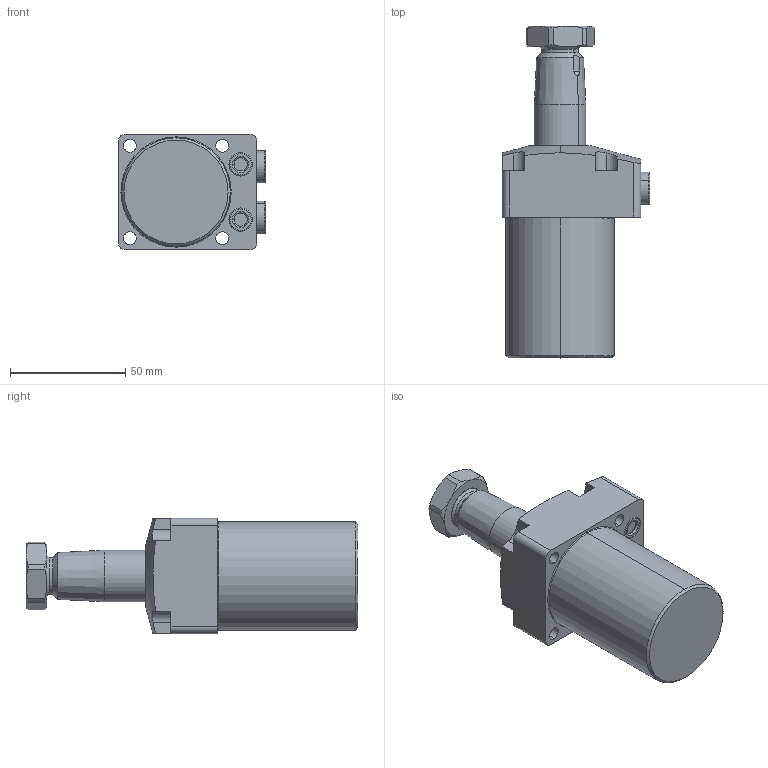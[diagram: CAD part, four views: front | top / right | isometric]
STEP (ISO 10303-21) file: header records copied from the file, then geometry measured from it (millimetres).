
FILE_DESCRIPTION(/* description */ (''),/* implementation_level */ '2;1');
FILE_NAME(/* name */ 'TRC04-LN45.stp',/* time_stamp */ '2025-01-04T09:47:17+08:00',/* author */ (''),/* organization */ (''),/* preprocessor_version */ 'ST-DEVELOPER v16.7',/* originating_system */ 'SIEMENS PLM Software NX 12.0',/* authorisation */ '');
FILE_SCHEMA (('AUTOMOTIVE_DESIGN { 1 0 10303 214 3 1 1 1 }'));
Length unit declared in the file: millimetre
Products named in the file (5): TRC04-LN45-04; TRC04-LN45-03; TRC04-LN45-02; TRC04-LN45-01; TRC04-LN45_stp
Assembly tree (5 placements, depth 2):
  TRC04-LN45_stp
    TRC04-LN45-01
    TRC04-LN45-02
    TRC04-LN45-03
    TRC04-LN45-04  x2
Bounding box: 63.8 x 143.8 x 50 mm (x, y, z)
Volume: 201715.1 mm3; surface area: 32130.8 mm2
Topology: 5 solids, 7 shells, 203 faces, 465 edges, 288 vertices
Faces by surface type: cylinder 73, plane 67, cone 40, torus 22, sphere 1
Entity records: 5434 total; most frequent: CARTESIAN_POINT 1110, DIRECTION 938, ORIENTED_EDGE 836, EDGE_CURVE 418, AXIS2_PLACEMENT_3D 386, VERTEX_POINT 260, EDGE_LOOP 206, CIRCLE 199
